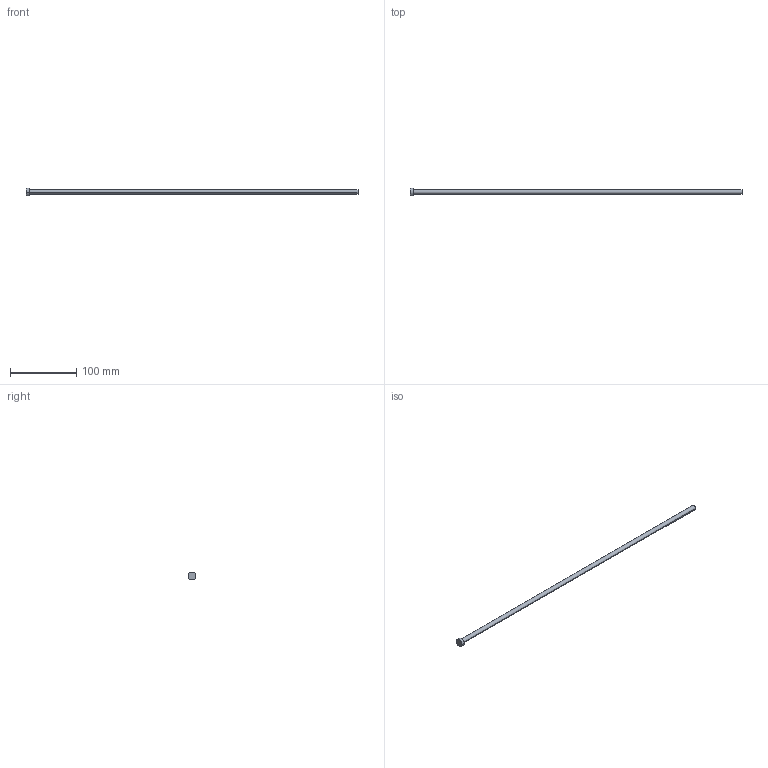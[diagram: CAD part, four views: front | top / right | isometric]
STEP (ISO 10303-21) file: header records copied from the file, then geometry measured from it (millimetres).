
FILE_DESCRIPTION (( 'STEP AP214' ), '1' );
FILE_NAME ('A-7x500.STEP', '2020-05-29T15:47:36', ( 'August' ), ( '' ), 'SwSTEP 2.0', 'SolidWorks 2018', '' );
FILE_SCHEMA (( 'AUTOMOTIVE_DESIGN' ));
Length unit declared in the file: millimetre
Products named in the file (1): A-7x500
Bounding box: 500 x 12 x 12 mm (x, y, z)
Volume: 19616.5 mm3; surface area: 11295.7 mm2
Topology: 1 solids, 1 shells, 9 faces, 16 edges, 10 vertices
Faces by surface type: cylinder 4, plane 3, torus 2
Entity records: 260 total; most frequent: DIRECTION 48, CARTESIAN_POINT 36, ORIENTED_EDGE 32, AXIS2_PLACEMENT_3D 22, EDGE_CURVE 16, CIRCLE 12, VERTEX_POINT 10, EDGE_LOOP 10
